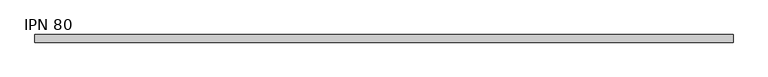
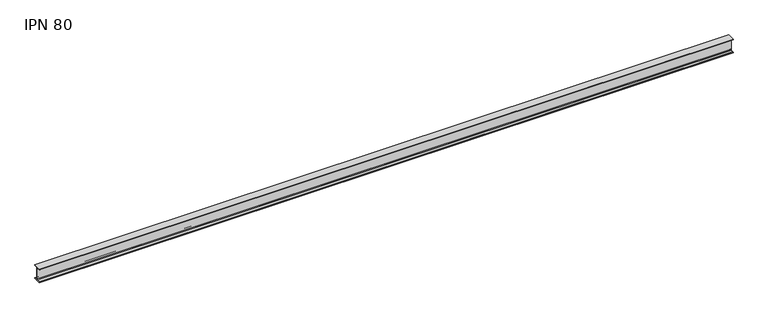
"""IFC4 building model written with IfcOpenShell, lengths in millimetres: beam geometry, IPN - Secciones en I con alas cónicas : IPN 80."""

from ifc_helpers import new_model, si_unit, point, frame, frame_2d, origin, place, context, project, spatial, polyline, circle_curve, trimmed, segment, composite_curve, outline, extrude, source, transform, mapped, element, save


def ipn_80_666343da(model_context):
    return source(origin(), model_context, "Body", "SweptSolid", [
        extrude(outline(composite_curve([segment(polyline([(-21.0, 40.0), (21.0, 40.0), (21.0, 37.5704306)]), True, "CONTINUOUS"), segment(trimmed(circle_curve(frame_2d((18.7, 37.5704306)), 2.3), [point((21.0, 37.5704306))], [point((19.01889, 35.2926446))], False, "CARTESIAN"), True, "CONTINUOUS"), segment(polyline([(19.01889, 35.2926446), (5.3092734, 33.3732983)]), True, "CONTINUOUS"), segment(trimmed(circle_curve(frame_2d((5.85, 29.5109655)), 3.9), [point((5.3092734, 33.3732983))], [point((1.95, 29.5109655))], True, "CARTESIAN"), True, "CONTINUOUS"), segment(polyline([(1.95, 29.5109655), (1.95, -29.5109655)]), True, "CONTINUOUS"), segment(trimmed(circle_curve(frame_2d((5.85, -29.5109655)), 3.9), [point((1.95, -29.5109655))], [point((5.3092734, -33.3732983))], True, "CARTESIAN"), True, "CONTINUOUS"), segment(polyline([(5.3092734, -33.3732983), (19.01889, -35.2926446)]), True, "CONTINUOUS"), segment(trimmed(circle_curve(frame_2d((18.7, -37.5704306)), 2.3), [point((19.01889, -35.2926446))], [point((21.0, -37.5704306))], False, "CARTESIAN"), True, "CONTINUOUS"), segment(polyline([(21.0, -37.5704306), (21.0, -40.0), (-21.0, -40.0), (-21.0, -37.5704306)]), True, "CONTINUOUS"), segment(trimmed(circle_curve(frame_2d((-18.7, -37.5704306)), 2.3), [point((-21.0, -37.5704306))], [point((-19.01889, -35.2926446))], False, "CARTESIAN"), True, "CONTINUOUS"), segment(polyline([(-19.01889, -35.2926446), (-5.3092734, -33.3732983)]), True, "CONTINUOUS"), segment(trimmed(circle_curve(frame_2d((-5.85, -29.5109655)), 3.9), [point((-5.3092734, -33.3732983))], [point((-1.95, -29.5109655))], True, "CARTESIAN"), True, "CONTINUOUS"), segment(polyline([(-1.95, -29.5109655), (-1.95, 29.5109655)]), True, "CONTINUOUS"), segment(trimmed(circle_curve(frame_2d((-5.85, 29.5109655)), 3.9), [point((-1.95, 29.5109655))], [point((-5.3092734, 33.3732983))], True, "CARTESIAN"), True, "CONTINUOUS"), segment(polyline([(-5.3092734, 33.3732983), (-19.01889, 35.2926446)]), True, "CONTINUOUS"), segment(trimmed(circle_curve(frame_2d((-18.7, 37.5704306)), 2.3), [point((-19.01889, 35.2926446))], [point((-21.0, 37.5704306))], False, "CARTESIAN"), True, "CONTINUOUS"), segment(polyline([(-21.0, 37.5704306), (-21.0, 40.0)]), True, "CONTINUOUS")], self_intersect=False)), frame((-1943.85, 0.0, 0.0), z_axis=(1.0, 0.0, 0.0), x_axis=(0.0, 1.0, 0.0)), (0.0, 0.0, 1.0), 3860.85),
    ])


if __name__ == "__main__":
    model = new_model("IFC4")
    model_context = context("Model", 3, world=origin())
    ifc_project = project(units=[si_unit("LENGTHUNIT", "METRE", prefix="MILLI")], contexts=[model_context])
    site = spatial("IfcSite", under=ifc_project)
    building = spatial("IfcBuilding", under=site)
    placement = place(None, origin())
    ipn_80_shape = ipn_80_666343da(model_context)
    element("IfcBeam", 1, ObjectType="IPN - Secciones en I con alas cónicas : IPN 80", at=placement, inside=building, context=model_context, shape_type="MappedRepresentation", body=[
        mapped(ipn_80_shape, transform((0.0, 0.0, 0.0), x_axis=(1.0, 0.0, 0.0), y_axis=(0.0, 1.0, 0.0), z_axis=(0.0, 0.0, 1.0))),
    ])
    save(model, "model.ifc")
